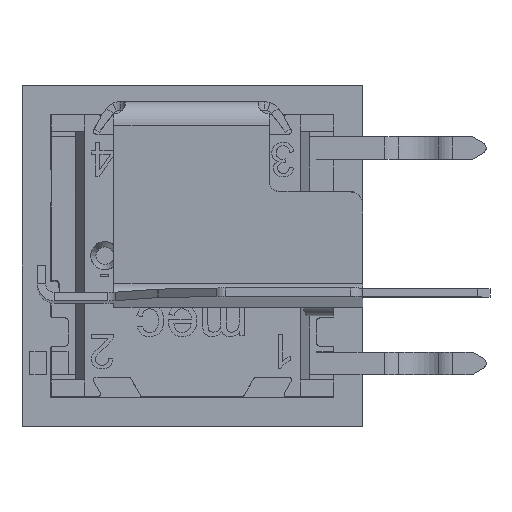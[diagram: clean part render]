
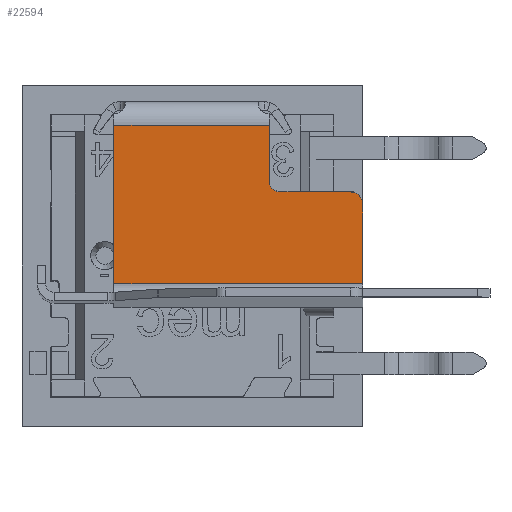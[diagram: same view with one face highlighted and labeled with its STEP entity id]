
A CAD part, top view. The second image highlights one B-rep face of the part: STEP entity #22594.
In plain terms, the highlighted planar face has unit normal (0, -0.052, 0.999).
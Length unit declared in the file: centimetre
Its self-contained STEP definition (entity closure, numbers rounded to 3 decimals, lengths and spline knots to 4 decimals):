
#1342=CIRCLE($,#23963,0.0425);
#1343=CIRCLE($,#23964,0.0375);
#2067=FACE_OUTER_BOUND($,#3245,.T.);
#3245=EDGE_LOOP($,(#15439,#15440,#15441,#15442,#15443,#15444,#15445,#15446));
#4580=LINE($,#36427,#6654);
#4583=LINE($,#36435,#6657);
#4592=LINE($,#36457,#6666);
#4594=LINE($,#36461,#6668);
#4595=LINE($,#36466,#6669);
#4596=LINE($,#36469,#6670);
#6654=VECTOR($,#26636,0.55);
#6657=VECTOR($,#26643,0.5611);
#6666=VECTOR($,#26670,0.88);
#6668=VECTOR($,#26674,0.2829);
#6669=VECTOR($,#26679,0.25);
#6670=VECTOR($,#26682,0.1982);
#8915=VERTEX_POINT($,#36222);
#8919=VERTEX_POINT($,#36422);
#8922=VERTEX_POINT($,#36433);
#8925=VERTEX_POINT($,#36448);
#8927=VERTEX_POINT($,#36459);
#8928=VERTEX_POINT($,#36463);
#8929=VERTEX_POINT($,#36465);
#8930=VERTEX_POINT($,#36467);
#11369=EDGE_CURVE($,#8919,#8915,#4580,.T.);
#11372=EDGE_CURVE($,#8922,#8915,#4583,.T.);
#11386=EDGE_CURVE($,#8922,#8925,#4592,.T.);
#11388=EDGE_CURVE($,#8927,#8925,#4594,.T.);
#11389=EDGE_CURVE($,#8928,#8927,#1342,.T.);
#11390=EDGE_CURVE($,#8929,#8928,#4595,.T.);
#11391=EDGE_CURVE($,#8930,#8929,#1343,.T.);
#11392=EDGE_CURVE($,#8919,#8930,#4596,.T.);
#15439=ORIENTED_EDGE($,*,*,#11369,.T.);
#15440=ORIENTED_EDGE($,*,*,#11372,.F.);
#15441=ORIENTED_EDGE($,*,*,#11386,.T.);
#15442=ORIENTED_EDGE($,*,*,#11388,.F.);
#15443=ORIENTED_EDGE($,*,*,#11389,.F.);
#15444=ORIENTED_EDGE($,*,*,#11390,.F.);
#15445=ORIENTED_EDGE($,*,*,#11391,.F.);
#15446=ORIENTED_EDGE($,*,*,#11392,.F.);
#20516=PLANE($,#23962);
#22594=ADVANCED_FACE($,(#2067),#20516,.T.);
#23962=AXIS2_PLACEMENT_3D($,#36462,#26675,#26676);
#23963=AXIS2_PLACEMENT_3D($,#36464,#26677,#26678);
#23964=AXIS2_PLACEMENT_3D($,#36468,#26680,#26681);
#26636=DIRECTION($,(-1.,0.,0.));
#26643=DIRECTION($,(0.,0.999,0.052));
#26670=DIRECTION($,(1.,0.,0.));
#26674=DIRECTION($,(0.,-0.999,-0.052));
#26675=DIRECTION('center_axis',(0.,-0.052,
0.999));
#26676=DIRECTION('ref_axis',(0.,0.999,0.052));
#26677=DIRECTION('center_axis',(0.,0.052,
-0.999));
#26678=DIRECTION('ref_axis',(-1.,0.,0.));
#26679=DIRECTION($,(1.,0.,0.));
#26680=DIRECTION('center_axis',(0.,-0.052,
0.999));
#26681=DIRECTION('ref_axis',(-1.,0.,0.));
#26682=DIRECTION($,(0.,-0.999,-0.052));
#36222=CARTESIAN_POINT('',(-0.2775,0.4608,0.4234));
#36422=CARTESIAN_POINT('',(0.2725,0.4608,0.4234));
#36427=CARTESIAN_POINT($,(0.5432,0.4608,0.4234));
#36433=CARTESIAN_POINT('',(-0.2775,-0.0995,0.3941));
#36435=CARTESIAN_POINT($,(-0.2775,-0.3663,0.3801));
#36448=CARTESIAN_POINT('',(0.6025,-0.0995,0.3941));
#36457=CARTESIAN_POINT($,(0.7082,-0.0995,0.3941));
#36459=CARTESIAN_POINT('',(0.6025,0.183,0.4089));
#36461=CARTESIAN_POINT($,(0.6025,0.183,0.4089));
#36462=CARTESIAN_POINT('Origin',(0.8139,-0.7557,0.3597));
#36463=CARTESIAN_POINT('',(0.56,0.2254,0.4111));
#36464=CARTESIAN_POINT('Origin',(0.56,0.183,0.4089));
#36465=CARTESIAN_POINT('',(0.31,0.2254,0.4111));
#36466=CARTESIAN_POINT($,(0.31,0.2254,0.4111));
#36467=CARTESIAN_POINT('',(0.2725,0.2629,0.4131));
#36468=CARTESIAN_POINT('Origin',(0.31,0.2629,0.4131));
#36469=CARTESIAN_POINT($,(0.2725,0.4951,0.4252));
